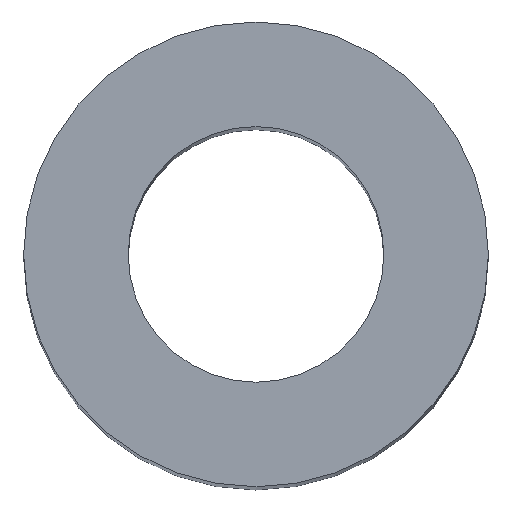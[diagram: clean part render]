
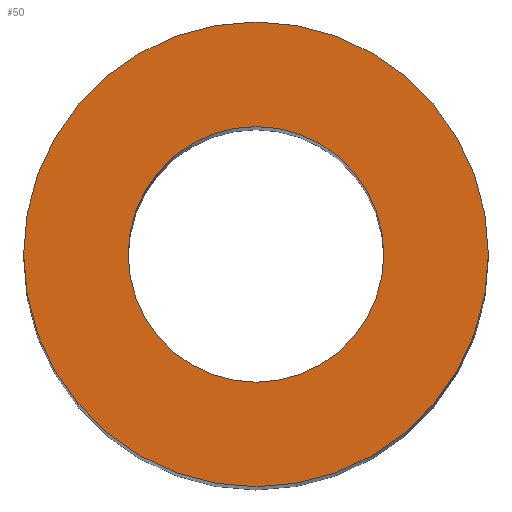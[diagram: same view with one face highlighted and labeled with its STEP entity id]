
A CAD part, top view. The second image highlights one B-rep face of the part: STEP entity #50.
In plain terms, the highlighted planar face has unit normal (0, 0, 1).
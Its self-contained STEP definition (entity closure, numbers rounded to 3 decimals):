
#21 = EDGE_CURVE('',#22,#22,#24,.T.);
#22 = VERTEX_POINT('',#23);
#23 = CARTESIAN_POINT('',(-69.,-102.,57.781));
#24 = CIRCLE('',#25,3.);
#25 = AXIS2_PLACEMENT_3D('',#26,#27,#28);
#26 = CARTESIAN_POINT('',(-72.,-102.,57.781));
#27 = DIRECTION('',(0.,0.,1.));
#28 = DIRECTION('',(1.,0.,0.));
#50 = ADVANCED_FACE('',(#51,#54),#65,.T.);
#51 = FACE_BOUND('',#52,.T.);
#52 = EDGE_LOOP('',(#53));
#53 = ORIENTED_EDGE('',*,*,#21,.T.);
#54 = FACE_BOUND('',#55,.T.);
#55 = EDGE_LOOP('',(#56));
#56 = ORIENTED_EDGE('',*,*,#57,.F.);
#57 = EDGE_CURVE('',#58,#58,#60,.T.);
#58 = VERTEX_POINT('',#59);
#59 = CARTESIAN_POINT('',(-70.35,-102.,57.781));
#60 = CIRCLE('',#61,1.65);
#61 = AXIS2_PLACEMENT_3D('',#62,#63,#64);
#62 = CARTESIAN_POINT('',(-72.,-102.,57.781));
#63 = DIRECTION('',(0.,0.,1.));
#64 = DIRECTION('',(1.,0.,0.));
#65 = PLANE('',#66);
#66 = AXIS2_PLACEMENT_3D('',#67,#68,#69);
#67 = CARTESIAN_POINT('',(-72.,-102.,57.781));
#68 = DIRECTION('',(0.,0.,1.));
#69 = DIRECTION('',(1.,0.,0.));
